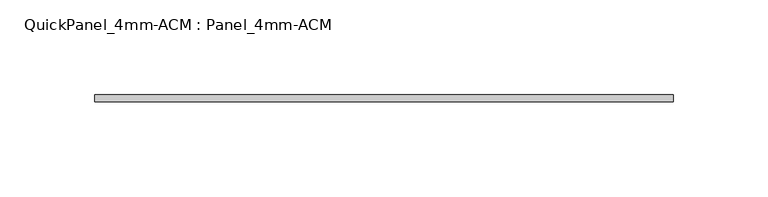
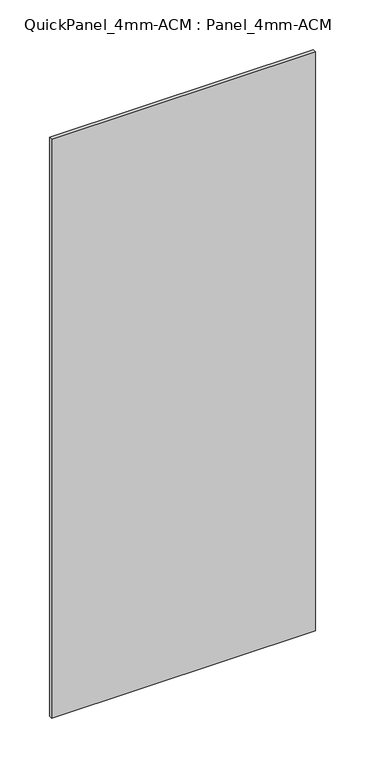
"""IFC4 building model written with IfcOpenShell, lengths in millimetres: plate geometry, QuickPanel_4mm-ACM : Panel_4mm-ACM."""

from ifc_helpers import new_model, si_unit, origin, origin_with_axes, place, context, project, spatial, polyline, outline, extrude, source, transform, mapped, element, save


def quickpanel_4mm_acm_panel_4mm_acm_099dd07b(model_context):
    return source(origin(), model_context, "Body", "SweptSolid", [
        extrude(outline(polyline([(-152.665908, -6.096), (152.665908, -6.096), (152.665908, -9.906), (-152.665908, -9.906), (-152.665908, -6.096)])), origin_with_axes(), (0.0, 0.0, 1.0), 708.4249834),
    ])


if __name__ == "__main__":
    model = new_model("IFC4")
    model_context = context("Model", 3, world=origin())
    ifc_project = project(units=[si_unit("LENGTHUNIT", "METRE", prefix="MILLI")], contexts=[model_context])
    site = spatial("IfcSite", under=ifc_project)
    building = spatial("IfcBuilding", under=site)
    placement = place(None, origin())
    quickpanel_4mm_acm_panel_4mm_acm_shape = quickpanel_4mm_acm_panel_4mm_acm_099dd07b(model_context)
    element("IfcPlate", 1, ObjectType="QuickPanel_4mm-ACM : Panel_4mm-ACM", at=placement, inside=building, context=model_context, shape_type="MappedRepresentation", body=[
        mapped(quickpanel_4mm_acm_panel_4mm_acm_shape, transform((0.0, 0.0, 0.0), x_axis=(1.0, 0.0, 0.0), y_axis=(0.0, 1.0, 0.0), z_axis=(0.0, 0.0, 1.0))),
    ])
    save(model, "model.ifc")
